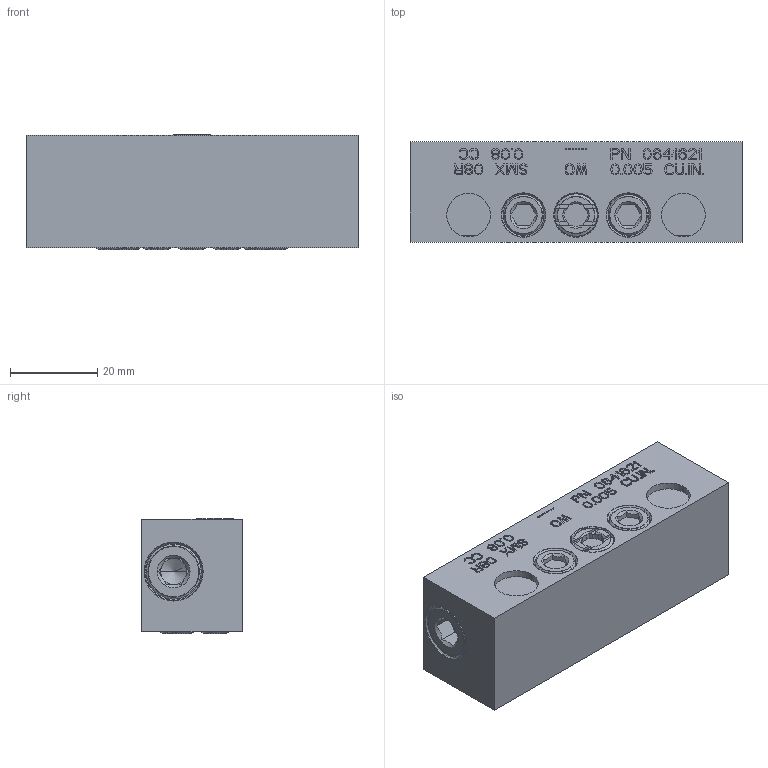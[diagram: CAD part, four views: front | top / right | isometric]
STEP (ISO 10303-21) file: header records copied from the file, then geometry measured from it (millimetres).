
FILE_DESCRIPTION((''),'2;1');
FILE_NAME('0641621_SMX_08R','2023-07-21T12:30:04',('pietro.masciave'),(''),'CREO PARAMETRIC BY PTC INC, 2022281','CREO PARAMETRIC BY PTC INC, 2022281','');
FILE_SCHEMA(('CONFIG_CONTROL_DESIGN'));
Length unit declared in the file: millimetre
Products named in the file (1): 0641621_SMX_08R
Bounding box: 76 x 23 x 26.33 mm (x, y, z)
Volume: 44003.3 mm3; surface area: 12677.7 mm2
Topology: 1 solids, 14 shells, 1407 faces, 3893 edges, 2587 vertices
Faces by surface type: plane 1231, cylinder 110, cone 44, torus 22
Entity records: 45399 total; most frequent: CARTESIAN_POINT 9193, ORIENTED_EDGE 7738, DIRECTION 6986, EDGE_CURVE 3889, VECTOR 3454, LINE 3454, VERTEX_POINT 2587, AXIS2_PLACEMENT_3D 1766
